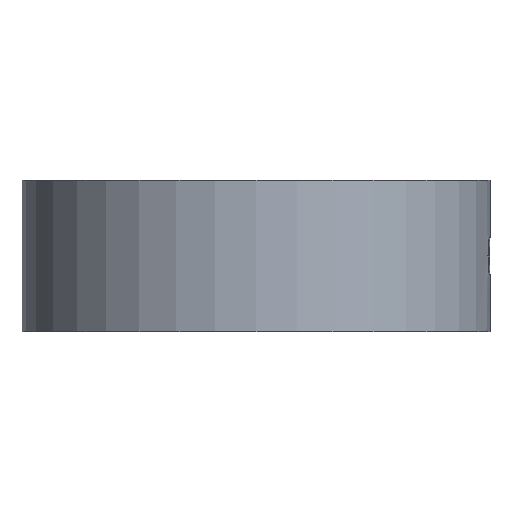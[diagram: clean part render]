
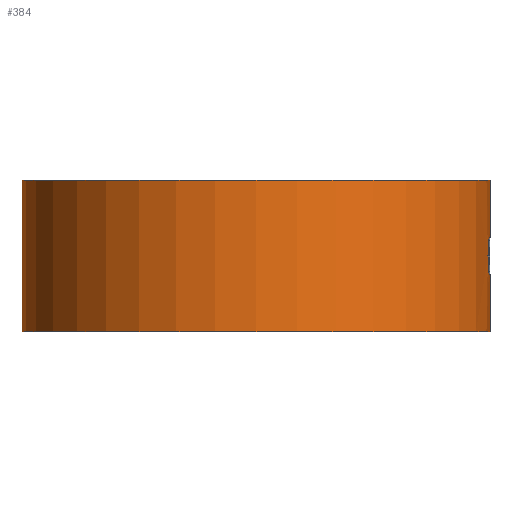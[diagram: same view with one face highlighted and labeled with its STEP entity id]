
A CAD part, front view. The second image highlights one B-rep face of the part: STEP entity #384.
In plain terms, the highlighted cylindrical face has radius 25.5 mm (diameter 51 mm), a partial arc.
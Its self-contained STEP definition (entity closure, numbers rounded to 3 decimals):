
#14 = VERTEX_POINT ( 'NONE', #190 ) ;
#15 = VERTEX_POINT ( 'NONE', #189 ) ;
#36 = ORIENTED_EDGE ( 'NONE', *, *, #56, .T. ) ;
#37 = ORIENTED_EDGE ( 'NONE', *, *, #38, .T. ) ;
#38 = EDGE_CURVE ( 'NONE', #64, #70, #223, .T. ) ;
#39 = ORIENTED_EDGE ( 'NONE', *, *, #40, .F. ) ;
#40 = EDGE_CURVE ( 'NONE', #15, #14, #218, .T. ) ;
#41 = ORIENTED_EDGE ( 'NONE', *, *, #73, .F. ) ;
#42 = EDGE_CURVE ( 'NONE', #74, #1461, #213, .T. ) ;
#44 = EDGE_CURVE ( 'NONE', #1461, #381, #201, .T. ) ;
#45 = ORIENTED_EDGE ( 'NONE', *, *, #44, .F. ) ;
#46 = ORIENTED_EDGE ( 'NONE', *, *, #42, .F. ) ;
#56 = EDGE_CURVE ( 'NONE', #15, #64, #241, .T. ) ;
#64 = VERTEX_POINT ( 'NONE', #226 ) ;
#66 = VERTEX_POINT ( 'NONE', #287 ) ;
#67 = EDGE_CURVE ( 'NONE', #66, #70, #286, .T. ) ;
#70 = VERTEX_POINT ( 'NONE', #277 ) ;
#73 = EDGE_CURVE ( 'NONE', #14, #74, #276, .T. ) ;
#74 = VERTEX_POINT ( 'NONE', #272 ) ;
#158 = EDGE_LOOP ( 'NONE', ( #41, #39, #36, #37, #383, #377, #379, #45, #46 ) ) ;
#189 = CARTESIAN_POINT ( 'NONE',  ( -25.5, 0., 16.5 ) ) ;
#190 = CARTESIAN_POINT ( 'NONE',  ( 25.5, 0., 16.5 ) ) ;
#197 = CARTESIAN_POINT ( 'NONE',  ( 25.271, -3.41, 8.25 ) ) ;
#198 = CARTESIAN_POINT ( 'NONE',  ( 25.308, -3.134, 8.915 ) ) ;
#199 = CARTESIAN_POINT ( 'NONE',  ( 25.341, -2.858, 9.582 ) ) ;
#200 = CARTESIAN_POINT ( 'NONE',  ( 25.369, -2.582, 10.25 ) ) ;
#201 = B_SPLINE_CURVE_WITH_KNOTS ( 'NONE', 3,
 ( #200, #199, #198, #197 ),
 .UNSPECIFIED., .F., .F.,
 ( 4, 4 ),
 ( 0., 1. ),
 .UNSPECIFIED. ) ;
#209 = DIRECTION ( 'NONE',  ( -1., 0., 0. ) ) ;
#210 = DIRECTION ( 'NONE',  ( 0., 0., -1. ) ) ;
#211 = CARTESIAN_POINT ( 'NONE',  ( 0., 0., 10.25 ) ) ;
#212 = AXIS2_PLACEMENT_3D ( 'NONE', #211, #210, #209 ) ;
#213 = CIRCLE ( 'NONE', #212, 25.5 ) ;
#214 = DIRECTION ( 'NONE',  ( 1., 0., 0. ) ) ;
#215 = DIRECTION ( 'NONE',  ( 0., 0., 1. ) ) ;
#216 = CARTESIAN_POINT ( 'NONE',  ( 0., 0., 16.5 ) ) ;
#217 = AXIS2_PLACEMENT_3D ( 'NONE', #216, #215, #214 ) ;
#218 = CIRCLE ( 'NONE', #217, 25.5 ) ;
#219 = DIRECTION ( 'NONE',  ( 1., 0., 0. ) ) ;
#220 = DIRECTION ( 'NONE',  ( 0., 0., 1. ) ) ;
#221 = CARTESIAN_POINT ( 'NONE',  ( 0., 0., 0. ) ) ;
#222 = AXIS2_PLACEMENT_3D ( 'NONE', #221, #220, #219 ) ;
#223 = CIRCLE ( 'NONE', #222, 25.5 ) ;
#226 = CARTESIAN_POINT ( 'NONE',  ( -25.5, 0., 0. ) ) ;
#234 = DIRECTION ( 'NONE',  ( 0., 0., -1. ) ) ;
#235 = VECTOR ( 'NONE', #234, 1000. ) ;
#236 = CARTESIAN_POINT ( 'NONE',  ( -25.5, 0., 16.5 ) ) ;
#241 = LINE ( 'NONE', #236, #235 ) ;
#272 = CARTESIAN_POINT ( 'NONE',  ( 25.5, 0., 10.25 ) ) ;
#273 = DIRECTION ( 'NONE',  ( 0., 0., -1. ) ) ;
#274 = VECTOR ( 'NONE', #273, 1000. ) ;
#275 = CARTESIAN_POINT ( 'NONE',  ( 25.5, 0., 16.5 ) ) ;
#276 = LINE ( 'NONE', #275, #274 ) ;
#277 = CARTESIAN_POINT ( 'NONE',  ( 25.5, 0., 0. ) ) ;
#283 = DIRECTION ( 'NONE',  ( 0., 0., -1. ) ) ;
#284 = VECTOR ( 'NONE', #283, 1000. ) ;
#285 = CARTESIAN_POINT ( 'NONE',  ( 25.5, 0., 16.5 ) ) ;
#286 = LINE ( 'NONE', #285, #284 ) ;
#287 = CARTESIAN_POINT ( 'NONE',  ( 25.5, 0., 6.25 ) ) ;
#377 = ORIENTED_EDGE ( 'NONE', *, *, #378, .F. ) ;
#378 = EDGE_CURVE ( 'NONE', #382, #66, #909, .T. ) ;
#379 = ORIENTED_EDGE ( 'NONE', *, *, #380, .T. ) ;
#380 = EDGE_CURVE ( 'NONE', #382, #381, #903, .T. ) ;
#381 = VERTEX_POINT ( 'NONE', #902 ) ;
#382 = VERTEX_POINT ( 'NONE', #904 ) ;
#383 = ORIENTED_EDGE ( 'NONE', *, *, #67, .F. ) ;
#384 = ADVANCED_FACE ( 'NONE', ( #901 ), #896, .T. ) ;
#892 = DIRECTION ( 'NONE',  ( -1., 0., 0. ) ) ;
#893 = DIRECTION ( 'NONE',  ( 0., 0., -1. ) ) ;
#894 = CARTESIAN_POINT ( 'NONE',  ( 0., 0., 16.5 ) ) ;
#895 = AXIS2_PLACEMENT_3D ( 'NONE', #894, #893, #892 ) ;
#896 = CYLINDRICAL_SURFACE ( 'NONE', #895, 25.5 ) ;
#897 = CARTESIAN_POINT ( 'NONE',  ( 25.271, -3.41, 8.25 ) ) ;
#898 = CARTESIAN_POINT ( 'NONE',  ( 25.306, -3.147, 7.615 ) ) ;
#899 = CARTESIAN_POINT ( 'NONE',  ( 25.34, -2.871, 6.949 ) ) ;
#900 = CARTESIAN_POINT ( 'NONE',  ( 25.369, -2.582, 6.25 ) ) ;
#901 = FACE_OUTER_BOUND ( 'NONE', #158, .T. ) ;
#902 = CARTESIAN_POINT ( 'NONE',  ( 25.271, -3.41, 8.25 ) ) ;
#903 = B_SPLINE_CURVE_WITH_KNOTS ( 'NONE', 3,
 ( #900, #899, #898, #897 ),
 .UNSPECIFIED., .F., .F.,
 ( 4, 4 ),
 ( 0., 1. ),
 .UNSPECIFIED. ) ;
#904 = CARTESIAN_POINT ( 'NONE',  ( 25.369, -2.582, 6.25 ) ) ;
#905 = DIRECTION ( 'NONE',  ( 1., 0., 0. ) ) ;
#906 = DIRECTION ( 'NONE',  ( 0., 0., 1. ) ) ;
#907 = CARTESIAN_POINT ( 'NONE',  ( 0., 0., 6.25 ) ) ;
#908 = AXIS2_PLACEMENT_3D ( 'NONE', #907, #906, #905 ) ;
#909 = CIRCLE ( 'NONE', #908, 25.5 ) ;
#1354 = CARTESIAN_POINT ( 'NONE',  ( 25.369, -2.582, 10.25 ) ) ;
#1461 = VERTEX_POINT ( 'NONE', #1354 ) ;
